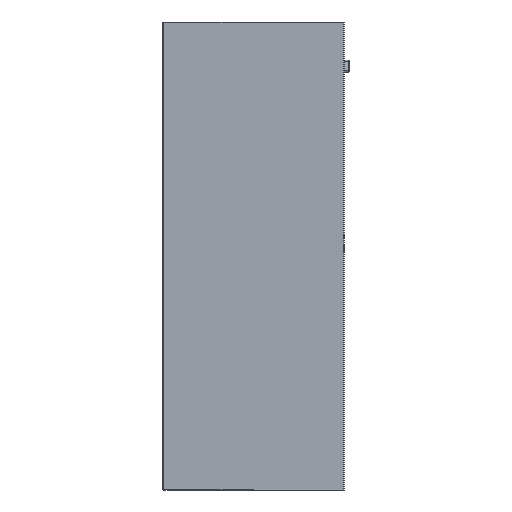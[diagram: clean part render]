
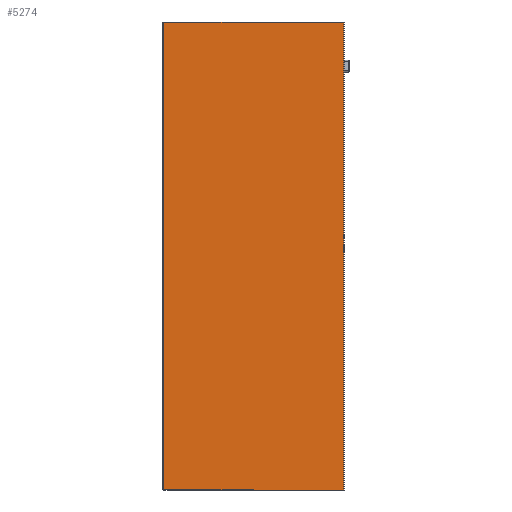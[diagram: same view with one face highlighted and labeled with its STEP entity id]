
A CAD part, left-side view. The second image highlights one B-rep face of the part: STEP entity #5274.
In plain terms, the highlighted planar face has unit normal (-1, 0, 0).
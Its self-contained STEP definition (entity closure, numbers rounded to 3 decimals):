
#279 = LINE ( 'NONE', #6702, #3850 ) ;
#1278 = ORIENTED_EDGE ( 'NONE', *, *, #3624, .F. ) ;
#1477 = VECTOR ( 'NONE', #3380, 1000. ) ;
#1642 = ORIENTED_EDGE ( 'NONE', *, *, #12389, .T. ) ;
#1872 = CARTESIAN_POINT ( 'NONE',  ( -12.5, 141.8, 0. ) ) ;
#2243 = LINE ( 'NONE', #3747, #4552 ) ;
#3052 = CARTESIAN_POINT ( 'NONE',  ( -12.5, -30.66, 0. ) ) ;
#3380 = DIRECTION ( 'NONE',  ( 0., -1., 0. ) ) ;
#3624 = EDGE_CURVE ( 'NONE', #10794, #8828, #3661, .T. ) ;
#3661 = LINE ( 'NONE', #12063, #6289 ) ;
#3747 = CARTESIAN_POINT ( 'NONE',  ( -12.5, -30.66, -512.455 ) ) ;
#3850 = VECTOR ( 'NONE', #5710, 1000. ) ;
#4552 = VECTOR ( 'NONE', #8678, 1000. ) ;
#5274 = ADVANCED_FACE ( 'NONE', ( #6400 ), #6814, .T. ) ;
#5338 = VERTEX_POINT ( 'NONE', #3052 ) ;
#5710 = DIRECTION ( 'NONE',  ( 0., -1., 0. ) ) ;
#5725 = EDGE_CURVE ( 'NONE', #8194, #5338, #2243, .T. ) ;
#5883 = DIRECTION ( 'NONE',  ( 0., 1., 0. ) ) ;
#6289 = VECTOR ( 'NONE', #8071, 1000. ) ;
#6400 = FACE_OUTER_BOUND ( 'NONE', #9916, .T. ) ;
#6702 = CARTESIAN_POINT ( 'NONE',  ( -12.5, 56.8, -449. ) ) ;
#6814 = PLANE ( 'NONE',  #7561 ) ;
#7561 = AXIS2_PLACEMENT_3D ( 'NONE', #11765, #11808, #5883 ) ;
#7834 = EDGE_CURVE ( 'NONE', #8828, #5338, #11403, .T. ) ;
#7948 = ORIENTED_EDGE ( 'NONE', *, *, #7834, .F. ) ;
#8071 = DIRECTION ( 'NONE',  ( 0., 0., 1. ) ) ;
#8194 = VERTEX_POINT ( 'NONE', #10000 ) ;
#8640 = CARTESIAN_POINT ( 'NONE',  ( -12.5, 141.8, -449. ) ) ;
#8678 = DIRECTION ( 'NONE',  ( 0., 0., 1. ) ) ;
#8828 = VERTEX_POINT ( 'NONE', #1872 ) ;
#9667 = ORIENTED_EDGE ( 'NONE', *, *, #5725, .T. ) ;
#9916 = EDGE_LOOP ( 'NONE', ( #9667, #7948, #1278, #1642 ) ) ;
#10000 = CARTESIAN_POINT ( 'NONE',  ( -12.5, -30.66, -449. ) ) ;
#10794 = VERTEX_POINT ( 'NONE', #8640 ) ;
#11403 = LINE ( 'NONE', #12256, #1477 ) ;
#11765 = CARTESIAN_POINT ( 'NONE',  ( -12.5, 55.8, -512.455 ) ) ;
#11808 = DIRECTION ( 'NONE',  ( -1., 0., 0. ) ) ;
#12063 = CARTESIAN_POINT ( 'NONE',  ( -12.5, 141.8, -512.455 ) ) ;
#12256 = CARTESIAN_POINT ( 'NONE',  ( -12.5, 55.8, 0. ) ) ;
#12389 = EDGE_CURVE ( 'NONE', #10794, #8194, #279, .T. ) ;
